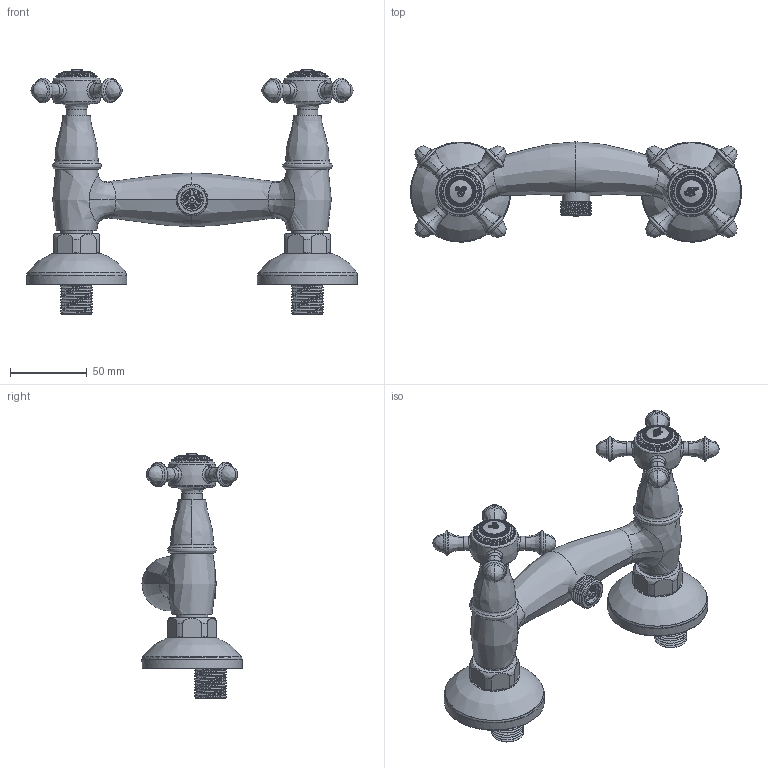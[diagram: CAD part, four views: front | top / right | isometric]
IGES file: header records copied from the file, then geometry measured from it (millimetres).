
Global section: file name: e72d18b8-1543-4d45-af8d-fe625cfb9d68; native system: unknown; preprocessor: unknown; author: unknown; organization: unknown; date: 20191209.171258; units: millimetre
Bounding box: 215 x 65 x 159.16 mm (x, y, z)
Volume: 239024 mm3; surface area: 104273.4 mm2
Topology: 22 solids, 22 shells, 1346 faces, 9574 edges, 8300 vertices
Faces by surface type: bspline 1340, revolution 6
